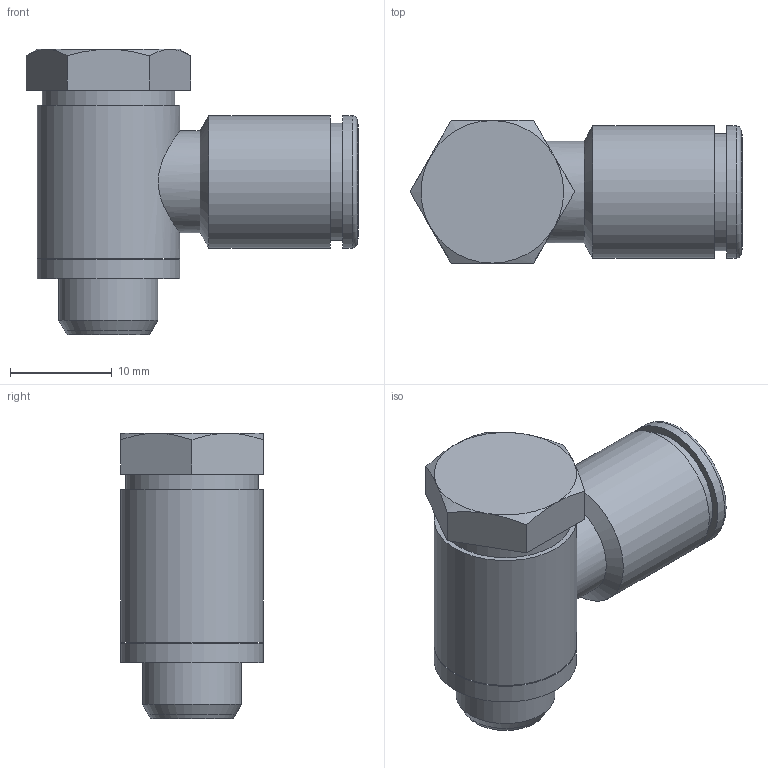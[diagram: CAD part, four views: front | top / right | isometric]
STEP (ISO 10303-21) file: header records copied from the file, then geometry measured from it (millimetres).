
FILE_DESCRIPTION(('Bauteilbeschreibung','HiCAD-Model','HiCAD-STEP-TRANSLATION','Bauteilbeschreibung'),'2;1');
FILE_NAME('B:/ABGLEICH/ZEICHNUNGEN/STEP FÜR INTERNET/STEP/S11207_IPSO_017_8_1-8.STP','2011-08-29T17:02:23+00:00',('Konstrukteur'),('Konstrukteur Firma GmbH'),' HiCAD neXt 2008, Step 3.1.1401.2J ','HiCAD neXt 2008','confidential');
FILE_SCHEMA(('AUTOMOTIVE_DESIGN { 1 2 10303 214 0 1 1 1 }'));
Length unit declared in the file: millimetre
Products named in the file (8): S11207_IPSO_017_8_1_8; A4102; A41020; G 1_8; A00032; A00042_DTG__1_8_UNV ; DR8_1_NEU; R201207_N
Assembly tree (7 placements, depth 3):
  S11207_IPSO_017_8_1_8
    A4102
    A41020
      G 1_8
    A00032
    A00042_DTG__1_8_UNV 
    DR8_1_NEU
    R201207_N
Bounding box: 32.58 x 14 x 28 mm (x, y, z)
Volume: 3956 mm3; surface area: 5703.5 mm2
Topology: 6 solids, 6 shells, 93 faces, 198 edges, 124 vertices
Faces by surface type: plane 34, cylinder 33, cone 25, torus 1
Full cylindrical faces by diameter (mm): 3.5 x2, 5 x1, 6 x1, 7.9 x1, 8.1 x1, 8.2 x1, 8.566 x2, 9.7 x1, 9.728 x2, 9.9 x2, 10 x2, 10.1 x1, 10.2 x1, 10.6 x1, 11 x1, 11.5 x1, 11.6 x1, 13 x3, 14 x2
Entity records: 6943 total; most frequent: CARTESIAN_POINT 4362, DIRECTION 414, ORIENTED_EDGE 260, AXIS2_PLACEMENT_3D 195, EDGE_LOOP 166, COLOUR_RGB 130, EDGE_CURVE 130, PRESENTATION_STYLE_ASSIGNMENT 130
